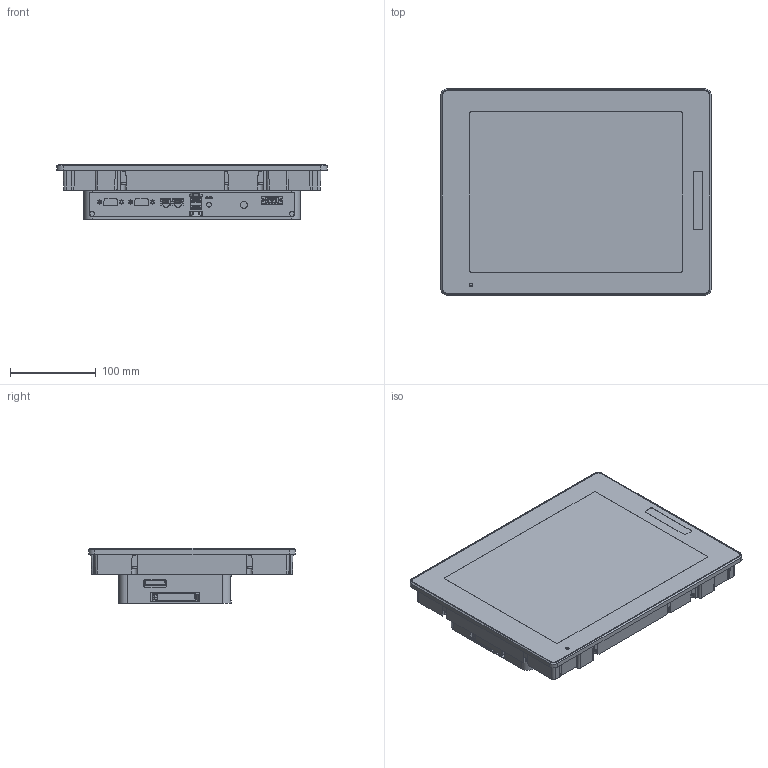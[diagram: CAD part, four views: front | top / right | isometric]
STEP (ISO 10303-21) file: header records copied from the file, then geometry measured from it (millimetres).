
FILE_DESCRIPTION (( 'STEP AP203' ), '1' );
FILE_NAME ('PFXGP6640TMDI_3D_simpl.STEP', '2024-05-30T14:20:48', ( '' ), ( '' ), 'SwSTEP 2.0', 'SolidWorks 2017', '' );
FILE_SCHEMA (( 'CONFIG_CONTROL_DESIGN' ));
Length unit declared in the file: millimetre
Products named in the file (1): PFXGP6640TMDI_3D_simpl
Bounding box: 315 x 241 x 64.28 mm (x, y, z)
Volume: 3140146.6 mm3; surface area: 245460.6 mm2
Topology: 7 solids, 14 shells, 2234 faces, 6201 edges, 4056 vertices
Faces by surface type: plane 1627, cylinder 441, bspline 141, cone 25
Full cylindrical faces by diameter (mm): 2.5 x2, 2.8 x2, 2.845 x4, 3.5 x4, 3.6 x1, 4 x4, 4.1 x8, 5.6 x25, 8 x5, 8.454 x6
Entity records: 84188 total; most frequent: CARTESIAN_POINT 28952, ORIENTED_EDGE 12190, DIRECTION 10081, EDGE_CURVE 6095, LINE 4731, VECTOR 4731, VERTEX_POINT 4035, AXIS2_PLACEMENT_3D 2675
